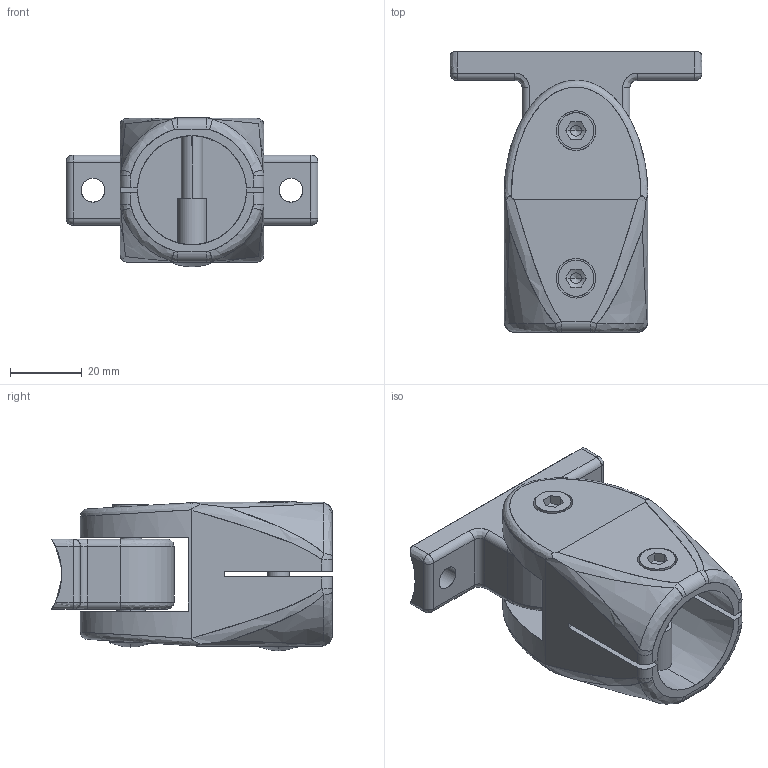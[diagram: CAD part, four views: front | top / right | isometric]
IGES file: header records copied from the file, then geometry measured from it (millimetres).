
Start section: SolidWorks IGES file using analytic representation for surfaces
Global section: file name: C:\Users\Gerard\OneDrive - Tecnodin, S.L\Escritorio\30 mm Verbinder im step. Format\31000410036.IGS; native system: SolidWorks 2016; preprocessor: SolidWorks 2016; author: Gerard; date: 240902.113642; units: millimetre
Bounding box: 70 x 77.99 x 41.5 mm (x, y, z)
Surface area: 26524.2 mm2 (no closed solid volume)
Topology: 0 solids, 0 shells, 192 faces, 2741 edges, 2727 vertices
Faces by surface type: revolution 100, bspline 92
